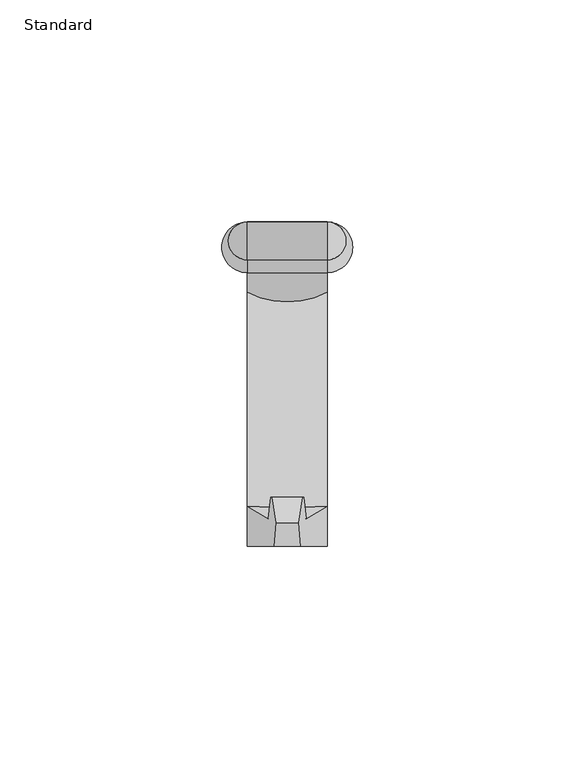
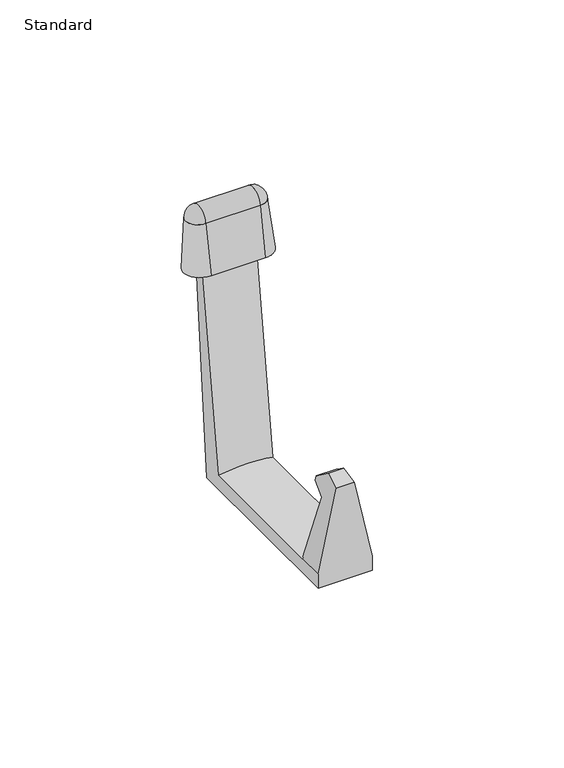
"""IFC4 building model written with IfcOpenShell, lengths in millimetres: furniture geometry, X_Partition-Robe Hook-Duracube-Door Stop : Standard."""

from ifc_helpers import new_model, si_unit, point, frame, origin, place, context, project, spatial, polyline, circle_curve, ellipse_curve, trimmed, source, transform, mapped, element, save
from ifc_brep_helpers import plane_surface, cylinder_surface, revolved_surface, advanced_brep


def standard_31cafe8a(model_context):
    return source(origin(), model_context, "Body", "AdvancedBrep", [
        advanced_brep(
        [(9.0, 20.6732168, 5.0), (-9.0, 20.6732168, 5.0), (-9.0, -27.4995567, 5.0), (8.9985088, -27.4996746, 5.0008976), (-9.0, 32.2994412, 87.7248847), (9.0, 32.2994412, 87.7248847), (9.0, 35.1400061, 87.3256694), (-9.0, 35.1400061, 87.3256694), (9.0, 27.5, 0.0), (-9.0, 27.5, 0.0), (9.0, -36.5, 5.0033753), (9.0, -36.5, 0.0), (-9.0, -36.5, 0.0), (-9.0, -36.5, 5.0), (2.911861, -36.5, 33.0), (-2.9118145, -36.5, 33.0), (-4.3052364, -30.3351791, 26.5915532), (4.3054402, -30.3351791, 26.5915532), (-3.7029476, -25.5374517, 29.3615225), (3.7030834, -25.5374517, 29.3615225), (-3.3767948, -25.5374517, 30.8615225), (3.3768938, -25.5374517, 30.8615225), (-2.5, -31.2963756, 34.8939644), (2.5, -31.2963756, 34.8939644)],
        [
            (0, 1, ellipse_curve(frame((0.0, 33.6690536, -9.95), z_axis=(0.0, -0.7547095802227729, -0.6560590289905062), x_axis=(0.0, -0.6560590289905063, 0.7547095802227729)), 23.1214767, 17.45)),
            (1, 2),
            (2, 3, ellipse_curve(frame((0.0, -25.5361707, -9.95), z_axis=(0.0, 0.9914861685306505, 0.1302120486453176), x_axis=(0.0, -0.13021204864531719, 0.9914861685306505)), 17.5998421, 17.45)),
            (3, 0),
            (4, 5, circle_curve(frame((0.0, 47.1039488, 85.6442469), z_axis=(0.0, 0.13917310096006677, 0.9902680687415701), x_axis=(0.0, -0.9902680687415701, 0.13917310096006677)), 17.45)),
            (5, 6),
            (6, 7),
            (7, 4),
            (0, 5),
            (4, 1),
            (6, 8),
            (8, 9),
            (9, 7),
            (3, 10),
            (10, 11),
            (11, 8),
            (12, 13),
            (13, 2),
            (9, 12),
            (12, 11),
            (10, 14),
            (14, 15),
            (15, 13),
            (16, 17),
            (17, 3),
            (2, 16),
            (16, 18),
            (18, 19),
            (19, 17),
            (18, 20),
            (20, 21),
            (21, 19),
            (20, 22),
            (22, 23),
            (23, 21),
            (14, 23),
            (22, 15),
        ],
        [
            cylinder_surface(frame((0.0, -29.3271864, -9.95), z_axis=(0.0, -1.0, 0.0), x_axis=(0.0, 0.0, 1.0)), 17.45),
            plane_surface(frame((0.0, 29.823771, 88.0728175), z_axis=(0.0, 0.13917310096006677, 0.9902680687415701), x_axis=(1.0, 0.0, 0.0))),
            cylinder_surface(frame((0.0, 35.7801778, 5.0714294), z_axis=(0.0, -0.13917310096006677, -0.9902680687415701), x_axis=(0.0, -0.9902680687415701, 0.13917310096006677)), 17.45),
            plane_surface(frame((9.0, 27.5, 0.0), z_axis=(0.0, 0.9961946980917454, -0.08715574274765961), x_axis=(-1.0, 0.0, 0.0))),
            plane_surface(frame((9.0, -36.5, 0.0), z_axis=(1.0, 0.0, 0.0), x_axis=(0.0, 0.0, -1.0))),
            plane_surface(frame((-9.0, -36.5, 0.0), z_axis=(-1.0, 0.0, 0.0), x_axis=(0.0, 0.0, 1.0))),
            plane_surface(frame((9.0, -36.5, 33.0), z_axis=(0.0, -1.0, 0.0), x_axis=(-1.0, 0.0, 0.0))),
            plane_surface(frame((9.0, -36.5, 0.0), z_axis=(0.0, 0.0, -1.0), x_axis=(-1.0, 0.0, 0.0))),
            plane_surface(frame((9.0, -27.5, 5.0033753), z_axis=(0.0, 0.9914861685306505, 0.1302120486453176), x_axis=(-1.0, 0.0, 0.0))),
            plane_surface(frame((9.0, -30.3351791, 26.5915532), z_axis=(0.0, 0.49999999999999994, -0.8660254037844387), x_axis=(-1.0, 0.0, 0.0))),
            plane_surface(frame((9.0, -25.5374517, 29.3615225), z_axis=(0.0, 1.0, 0.0), x_axis=(-1.0, 0.0, 0.0))),
            plane_surface(frame((9.0, -25.5374517, 30.8615225), z_axis=(0.0, 0.5735764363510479, 0.8191520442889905), x_axis=(-1.0, 0.0, 0.0))),
            plane_surface(frame((9.0, -31.2963756, 34.8939644), z_axis=(0.0, -0.34202014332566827, 0.9396926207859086), x_axis=(-1.0, 0.0, 0.0))),
            plane_surface(frame((2.5, -43.6239531, 34.8939644), z_axis=(0.977162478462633, 0.0, 0.2124935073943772), x_axis=(0.0, 1.0, 0.0))),
            plane_surface(frame((-9.0, -43.6239531, 5.0), z_axis=(-0.9771674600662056, 0.0, 0.2124705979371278), x_axis=(0.0, 1.0, 0.0))),
        ],
        [
            (0, [[1, 2, 3, 4]]),
            (1, [[5, 6, 7, 8]]),
            (2, [[-1, 9, -5, 10]]),
            (3, [[11, 12, 13, -7]]),
            (4, [[-11, -6, -9, -4, 14, 15, 16]]),
            (5, [[17, 18, -2, -10, -8, -13, 19]]),
            (6, [[20, -15, 21, 22, 23, -17]]),
            (7, [[-16, -20, -19, -12]]),
            (8, [[24, 25, -3, 26]]),
            (9, [[-24, 27, 28, 29]]),
            (10, [[-28, 30, 31, 32]]),
            (11, [[-31, 33, 34, 35]]),
            (12, [[-22, 36, -34, 37]]),
            (13, [[-21, -14, -25, -29, -32, -35, -36]]),
            (14, [[-18, -23, -37, -33, -30, -27, -26]]),
        ],
    ),
        advanced_brep(
        [(-9.0, 36.4341465, 88.2239526), (9.0, 36.4341465, 88.2239526), (9.0, 28.0061564, 88.9421143), (-9.0, 28.0061564, 88.9421143)],
        [
            (0, 1),
            (1, 2, circle_curve(frame((9.0, 32.2201515, 88.5830334), z_axis=(0.0, -0.0849038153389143, -0.996389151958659), x_axis=(0.0, 0.9963891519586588, -0.08490381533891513)), 4.2292663)),
            (2, 3),
            (3, 0, circle_curve(frame((-9.0, 32.2201515, 88.5830334), z_axis=(0.0, -0.0849038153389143, -0.996389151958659), x_axis=(0.0, 0.9963891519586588, -0.08490381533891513)), 4.2292663)),
            (0, 3, circle_curve(frame((-9.0, 32.2201515, 88.5830334), z_axis=(1.0, 0.0, 0.0), x_axis=(0.0, -0.9963891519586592, 0.08490381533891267)), 4.2292663)),
            (2, 1, circle_curve(frame((9.0, 32.2201515, 88.5830334), z_axis=(-1.0, 0.0, 0.0), x_axis=(0.0, -0.9963891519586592, 0.08490381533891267)), 4.2292663)),
        ],
        [
            plane_surface(frame((-9.0, 36.4341465, 88.2239526), z_axis=(0.0, -0.08490381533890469, -0.9963891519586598), x_axis=(1.0, 0.0, 0.0))),
            cylinder_surface(frame((9.0, 32.2201515, 88.5830334), z_axis=(-1.0000000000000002, 0.0, 0.0), x_axis=(0.0, -0.9963891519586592, 0.08490381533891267)), 4.2292663),
            revolved_surface(trimmed(ellipse_curve(frame((-9.0, 32.2201515, 88.5830334), z_axis=(0.0, -0.0849038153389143, -0.996389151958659), x_axis=(0.0, 0.9963891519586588, -0.08490381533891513)), 4.2292663, 4.2292663), [point((-9.0, 28.0061564, 88.9421143))], [point((-9.0, 36.4341465, 88.2239526))], True, "CARTESIAN"), (-9.0, 36.4341465, 88.2239526), (0.0, 0.9963891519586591, -0.08490381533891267)),
            revolved_surface(trimmed(ellipse_curve(frame((9.0, 32.2201515, 88.5830334), z_axis=(0.0, -0.0849038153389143, -0.996389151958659), x_axis=(0.0, 0.9963891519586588, -0.08490381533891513)), 4.2292663, 4.2292663), [point((9.0, 36.4341465, 88.2239526))], [point((9.0, 28.0061564, 88.9421143))], True, "CARTESIAN"), (9.0, 36.4341465, 88.2239526), (0.0, -0.9963891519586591, 0.08490381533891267)),
        ],
        [
            (0, [[1, 2, 3, 4]]),
            (1, [[-1, 5, -3, 6]]),
            (2, [[-4, -5]]),
            (3, [[-2, -6]]),
        ],
    ),
        advanced_brep(
        [(9.0, 36.4341465, 88.2239526), (-9.0, 36.4341465, 88.2239526), (-9.0, 28.0061564, 88.9421143), (9.0, 28.0061564, 88.9421143), (9.0, 36.5, 71.3297259), (9.0, 25.0828424, 72.302599), (-9.0, 25.0828424, 72.302599), (-9.0, 36.5, 71.3297259)],
        [
            (0, 1),
            (1, 2, circle_curve(frame((-9.0, 32.2201515, 88.5830334), z_axis=(0.0, 0.08490381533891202, 0.9963891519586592), x_axis=(0.0, 0.9963891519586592, -0.08490381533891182)), 4.2292663)),
            (2, 3),
            (3, 0, circle_curve(frame((9.0, 32.2201515, 88.5830334), z_axis=(0.0, 0.08490381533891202, 0.9963891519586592), x_axis=(0.0, -0.996389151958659, 0.08490381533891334)), 4.2292663)),
            (4, 5, circle_curve(frame((9.0, 30.7914212, 71.8161624), z_axis=(0.0, -0.08490381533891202, -0.9963891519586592), x_axis=(0.0, -0.996389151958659, 0.08490381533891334)), 5.7292663)),
            (5, 6),
            (6, 7, circle_curve(frame((-9.0, 30.7914212, 71.8161624), z_axis=(0.0, -0.08490381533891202, -0.9963891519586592), x_axis=(0.0, 0.9963891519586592, -0.08490381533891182)), 5.7292663)),
            (7, 4),
            (7, 1),
            (0, 4),
            (6, 2),
            (5, 3),
        ],
        [
            plane_surface(frame((0.0, 32.2201515, 88.5830334), z_axis=(0.0, 0.08490381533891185, 0.9963891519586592), x_axis=(1.0, 0.0, 0.0))),
            plane_surface(frame((0.0, 30.7914212, 71.8161624), z_axis=(0.0, -0.08490381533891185, -0.9963891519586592), x_axis=(1.0, 0.0, 0.0))),
            plane_surface(frame((0.0, 36.5, 71.3297259), z_axis=(0.0, 0.9999924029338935, 0.0038979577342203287), x_axis=(-1.0, 0.0, 0.0))),
            revolved_surface(polyline([(-9.0, 36.43414651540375, 88.2239526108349), (-9.0, 36.50000000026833, 71.32972583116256)]), (-9.0, 36.2484719, 135.8574084), (0.0, -0.08490381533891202, -0.9963891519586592)),
            plane_surface(frame((0.0, 25.0828424, 72.302599), z_axis=(0.0, -0.9849156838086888, 0.1730349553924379), x_axis=(1.0, 0.0, 0.0))),
            revolved_surface(polyline([(9.0, 28.006156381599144, 88.94211430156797), (9.0, 25.082842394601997, 72.30259896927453)]), (9.0, 36.2484719, 135.8574084), (0.0, -0.08490381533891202, -0.9963891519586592)),
        ],
        [
            (0, [[1, 2, 3, 4]]),
            (1, [[5, 6, 7, 8]]),
            (2, [[-8, 9, -1, 10]]),
            (3, [[-7, 11, -2, -9]]),
            (4, [[-6, 12, -3, -11]]),
            (5, [[-5, -10, -4, -12]]),
        ],
    ),
    ])


if __name__ == "__main__":
    model = new_model("IFC4")
    model_context = context("Model", 3, world=origin())
    ifc_project = project(units=[si_unit("LENGTHUNIT", "METRE", prefix="MILLI")], contexts=[model_context])
    site = spatial("IfcSite", under=ifc_project)
    building = spatial("IfcBuilding", under=site)
    placement = place(None, origin())
    standard_shape = standard_31cafe8a(model_context)
    element("IfcFurniture", 1, ObjectType="X_Partition-Robe Hook-Duracube-Door Stop : Standard", at=placement, inside=building, context=model_context, shape_type="MappedRepresentation", body=[
        mapped(standard_shape, transform((0.0, 0.0, 0.0), x_axis=(1.0, 0.0, 0.0), y_axis=(0.0, 1.0, 0.0), z_axis=(0.0, 0.0, 1.0))),
    ])
    save(model, "model.ifc")
